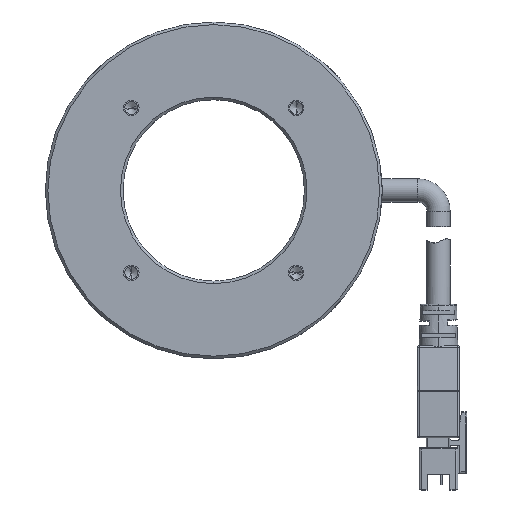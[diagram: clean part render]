
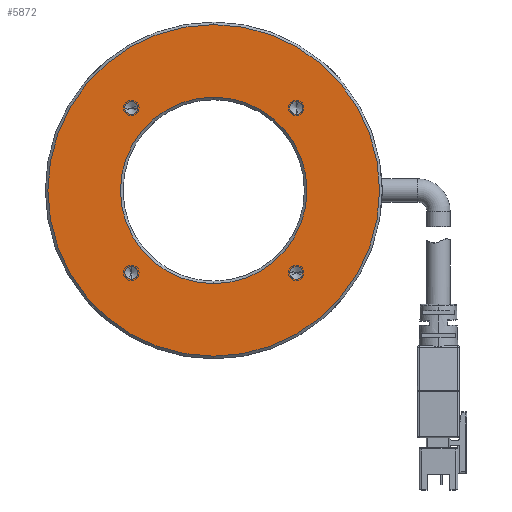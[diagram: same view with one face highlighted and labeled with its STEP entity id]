
A CAD part, top view. The second image highlights one B-rep face of the part: STEP entity #5872.
In plain terms, the highlighted planar face has unit normal (0, 0, 1).
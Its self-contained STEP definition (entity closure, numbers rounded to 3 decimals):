
#1294=CARTESIAN_POINT('',(0.,0.,1.5));
#1295=DIRECTION('',(0.,0.,-1.));
#1296=DIRECTION('',(0.,1.,0.));
#1297=AXIS2_PLACEMENT_3D('',#1294,#1295,#1296);
#1299=CARTESIAN_POINT('',(0.,0.,1.5));
#1300=DIRECTION('',(0.,0.,-1.));
#1301=DIRECTION('',(0.,-1.,0.));
#1302=AXIS2_PLACEMENT_3D('',#1299,#1300,#1301);
#1304=CARTESIAN_POINT('',(15.91,15.91,1.5));
#1305=DIRECTION('',(0.,0.,-1.));
#1306=DIRECTION('',(0.,1.,0.));
#1307=AXIS2_PLACEMENT_3D('',#1304,#1305,#1306);
#1309=CARTESIAN_POINT('',(15.91,15.91,1.5));
#1310=DIRECTION('',(0.,0.,-1.));
#1311=DIRECTION('',(0.,-1.,0.));
#1312=AXIS2_PLACEMENT_3D('',#1309,#1310,#1311);
#1314=CARTESIAN_POINT('',(-15.91,15.91,1.5));
#1315=DIRECTION('',(0.,0.,-1.));
#1316=DIRECTION('',(-1.,0.,0.));
#1317=AXIS2_PLACEMENT_3D('',#1314,#1315,#1316);
#1319=CARTESIAN_POINT('',(-15.91,15.91,1.5));
#1320=DIRECTION('',(0.,0.,-1.));
#1321=DIRECTION('',(1.,0.,0.));
#1322=AXIS2_PLACEMENT_3D('',#1319,#1320,#1321);
#1324=CARTESIAN_POINT('',(-15.91,-15.91,1.5));
#1325=DIRECTION('',(0.,0.,-1.));
#1326=DIRECTION('',(0.,-1.,0.));
#1327=AXIS2_PLACEMENT_3D('',#1324,#1325,#1326);
#1329=CARTESIAN_POINT('',(-15.91,-15.91,1.5));
#1330=DIRECTION('',(0.,0.,-1.));
#1331=DIRECTION('',(0.,1.,0.));
#1332=AXIS2_PLACEMENT_3D('',#1329,#1330,#1331);
#1334=CARTESIAN_POINT('',(15.91,-15.91,1.5));
#1335=DIRECTION('',(0.,0.,-1.));
#1336=DIRECTION('',(1.,0.,0.));
#1337=AXIS2_PLACEMENT_3D('',#1334,#1335,#1336);
#1339=CARTESIAN_POINT('',(15.91,-15.91,1.5));
#1340=DIRECTION('',(0.,0.,-1.));
#1341=DIRECTION('',(-1.,0.,0.));
#1342=AXIS2_PLACEMENT_3D('',#1339,#1340,#1341);
#1344=CARTESIAN_POINT('',(0.,0.,1.5));
#1345=DIRECTION('',(0.,0.,1.));
#1346=DIRECTION('',(0.,-1.,0.));
#1347=AXIS2_PLACEMENT_3D('',#1344,#1345,#1346);
#1349=CARTESIAN_POINT('',(0.,0.,1.5));
#1350=DIRECTION('',(0.,0.,1.));
#1351=DIRECTION('',(0.,1.,0.));
#1352=AXIS2_PLACEMENT_3D('',#1349,#1350,#1351);
#3640=CARTESIAN_POINT('',(0.,32.,1.5));
#3641=CARTESIAN_POINT('',(0.,-32.,1.5));
#3642=VERTEX_POINT('',#3640);
#3643=VERTEX_POINT('',#3641);
#3644=CARTESIAN_POINT('',(14.66,-15.91,1.5));
#3645=CARTESIAN_POINT('',(17.16,-15.91,1.5));
#3646=VERTEX_POINT('',#3644);
#3647=VERTEX_POINT('',#3645);
#3648=CARTESIAN_POINT('',(-15.91,-14.66,1.5));
#3649=CARTESIAN_POINT('',(-15.91,-17.16,1.5));
#3650=VERTEX_POINT('',#3648);
#3651=VERTEX_POINT('',#3649);
#3652=CARTESIAN_POINT('',(-14.66,15.91,1.5));
#3653=CARTESIAN_POINT('',(-17.16,15.91,1.5));
#3654=VERTEX_POINT('',#3652);
#3655=VERTEX_POINT('',#3653);
#3656=CARTESIAN_POINT('',(15.91,14.66,1.5));
#3657=CARTESIAN_POINT('',(15.91,17.16,1.5));
#3658=VERTEX_POINT('',#3656);
#3659=VERTEX_POINT('',#3657);
#3660=CARTESIAN_POINT('',(0.,-18.,1.5));
#3661=CARTESIAN_POINT('',(0.,18.,1.5));
#3662=VERTEX_POINT('',#3660);
#3663=VERTEX_POINT('',#3661);
#5833=CARTESIAN_POINT('',(0.,0.,1.5));
#5834=DIRECTION('',(0.,0.,-1.));
#5835=DIRECTION('',(0.,1.,0.));
#5836=AXIS2_PLACEMENT_3D('',#5833,#5834,#5835);
#5837=PLANE('',#5836);
#5838=ORIENTED_EDGE('',*,*,#5828,.F.);
#5839=ORIENTED_EDGE('',*,*,#5812,.F.);
#5840=EDGE_LOOP('',(#5838,#5839));
#5841=FACE_OUTER_BOUND('',#5840,.F.);
#5843=ORIENTED_EDGE('',*,*,#5842,.F.);
#5845=ORIENTED_EDGE('',*,*,#5844,.F.);
#5846=EDGE_LOOP('',(#5843,#5845));
#5847=FACE_BOUND('',#5846,.F.);
#5849=ORIENTED_EDGE('',*,*,#5848,.F.);
#5851=ORIENTED_EDGE('',*,*,#5850,.F.);
#5852=EDGE_LOOP('',(#5849,#5851));
#5853=FACE_BOUND('',#5852,.F.);
#5855=ORIENTED_EDGE('',*,*,#5854,.F.);
#5857=ORIENTED_EDGE('',*,*,#5856,.F.);
#5858=EDGE_LOOP('',(#5855,#5857));
#5859=FACE_BOUND('',#5858,.F.);
#5861=ORIENTED_EDGE('',*,*,#5860,.F.);
#5863=ORIENTED_EDGE('',*,*,#5862,.F.);
#5864=EDGE_LOOP('',(#5861,#5863));
#5865=FACE_BOUND('',#5864,.F.);
#5867=ORIENTED_EDGE('',*,*,#5866,.F.);
#5869=ORIENTED_EDGE('',*,*,#5868,.F.);
#5870=EDGE_LOOP('',(#5867,#5869));
#5871=FACE_BOUND('',#5870,.F.);
#5872=ADVANCED_FACE('',(#5841,#5847,#5853,#5859,#5865,#5871),#5837,.F.);
#1298=CIRCLE('',#1297,18.);
#1303=CIRCLE('',#1302,18.);
#1308=CIRCLE('',#1307,1.25);
#1313=CIRCLE('',#1312,1.25);
#1318=CIRCLE('',#1317,1.25);
#1323=CIRCLE('',#1322,1.25);
#1328=CIRCLE('',#1327,1.25);
#1333=CIRCLE('',#1332,1.25);
#1338=CIRCLE('',#1337,1.25);
#1343=CIRCLE('',#1342,1.25);
#1348=CIRCLE('',#1347,32.);
#1353=CIRCLE('',#1352,32.);
#5812=EDGE_CURVE('',#3642,#3643,#1353,.T.);
#5828=EDGE_CURVE('',#3643,#3642,#1348,.T.);
#5842=EDGE_CURVE('',#3659,#3658,#1308,.T.);
#5844=EDGE_CURVE('',#3658,#3659,#1313,.T.);
#5848=EDGE_CURVE('',#3655,#3654,#1318,.T.);
#5850=EDGE_CURVE('',#3654,#3655,#1323,.T.);
#5854=EDGE_CURVE('',#3651,#3650,#1328,.T.);
#5856=EDGE_CURVE('',#3650,#3651,#1333,.T.);
#5860=EDGE_CURVE('',#3647,#3646,#1338,.T.);
#5862=EDGE_CURVE('',#3646,#3647,#1343,.T.);
#5866=EDGE_CURVE('',#3663,#3662,#1298,.T.);
#5868=EDGE_CURVE('',#3662,#3663,#1303,.T.);
